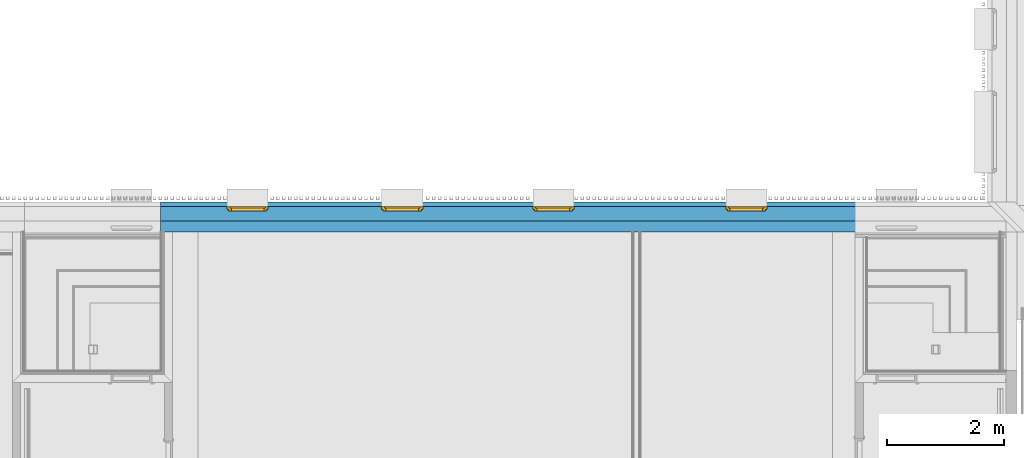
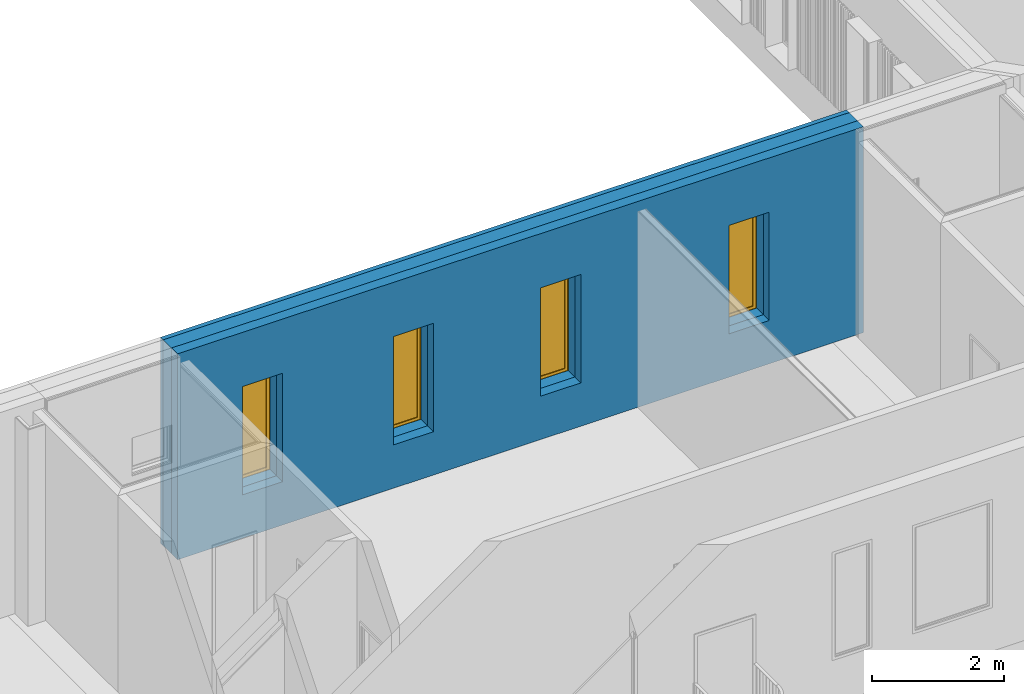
# One storey, part 33 of 100: 4 windows, 3 building element parts, 4 openings, 1 element without a shape of its own.
"""IFC2X3 building model written with IfcOpenShell, lengths in millimetres."""

from ifc_helpers import new_model, entity, si_unit, converted_unit, derived_unit, money_unit, direction, frame, origin_with_axes, origin_2d_with_axis, place, context, subcontext, project, spatial, polyline, rectangle, outline, extrude, open_shell, faceted_brep, surface_model, source, transform, mapped, material, type_object, element, fill, aggregate, save


model = new_model("IFC2X3")

# Units and contexts
model_context = context("Model", 3, precision=0.01, world=origin_with_axes(), true_north=direction((0.0, 1.0)))
body_context = subcontext(model_context, "Body", "Model", "MODEL_VIEW")
ifc_project = project(units=[si_unit("LENGTHUNIT", "METRE", prefix="MILLI"), si_unit("AREAUNIT", "SQUARE_METRE"), si_unit("VOLUMEUNIT", "CUBIC_METRE"), converted_unit("PLANEANGLEUNIT", "DEGREE", entity("IfcPlaneAngleMeasure", 0.0174532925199), si_unit("PLANEANGLEUNIT", "RADIAN"), dimensions=[0, 0, 0, 0, 0, 0, 0]), si_unit("SOLIDANGLEUNIT", "STERADIAN"), money_unit("EUR"), converted_unit("TIMEUNIT", "Year", entity("IfcTimeMeasure", 31556926.0), si_unit("TIMEUNIT", "SECOND"), dimensions=[0, 0, 1, 0, 0, 0, 0]), si_unit("MASSUNIT", "GRAM", prefix="KILO"), si_unit("THERMODYNAMICTEMPERATUREUNIT", "DEGREE_CELSIUS"), si_unit("LUMINOUSINTENSITYUNIT", "LUMEN"), si_unit("ENERGYUNIT", "JOULE", prefix="MEGA"), derived_unit("THERMALCONDUCTANCEUNIT", [(si_unit("POWERUNIT", "WATT"), 1), (si_unit("LENGTHUNIT", "METRE"), -1), (si_unit("THERMODYNAMICTEMPERATUREUNIT", "KELVIN"), -1)]), derived_unit("SPECIFICHEATCAPACITYUNIT", [(si_unit("ENERGYUNIT", "JOULE"), 1), (si_unit("MASSUNIT", "GRAM", prefix="KILO"), -1), (si_unit("THERMODYNAMICTEMPERATUREUNIT", "KELVIN"), -1)]), derived_unit("MASSDENSITYUNIT", [(si_unit("MASSUNIT", "GRAM", prefix="KILO"), 1), (si_unit("VOLUMEUNIT", "CUBIC_METRE"), -1)])], contexts=[model_context])

# Site, building, storey
site_placement = place(None, origin_with_axes())
site = spatial("IfcSite", under=ifc_project, at=site_placement, Name="Politse- ja Piirivalveameti ning Päästeameti ühishoone", CompositionType="ELEMENT")
building_placement = place(site_placement, origin_with_axes())
building = spatial("IfcBuilding", under=site, at=building_placement, Name="Politse- ja Piirivalveameti ning Päästeameti ühishoone", CompositionType="ELEMENT")
storey_placement = place(building_placement, frame((0.0, 0.0, 3800.0), z_axis=(0.0, 0.0, 1.0), x_axis=(1.0, 0.0, 0.0)))
storey = spatial("IfcBuildingStorey", under=building, at=storey_placement, Name="Teine korrus", CompositionType="ELEMENT", Elevation=3800.0)

# Window
window_style = type_object("IfcWindowStyle", Name="Window 23", ConstructionType="NOTDEFINED", OperationType="SINGLE_PANEL", ParameterTakesPrecedence=False, Sizeable=False)
shared_shape = source(origin_with_axes(), body_context, "Body", "SurfaceModel", [
    faceted_brep([(-325.0, 0.0, 1950.0), (-350.0, 0.0, 1950.0), (-350.0, -50.0, 1950.0), (-300.0, -50.0, 1950.0), (-300.0, -25.0, 1950.0), (-325.0, -25.0, 1950.0), (-325.0, 0.0, 50.0), (-350.0, 0.0, 50.0), (-350.0, -50.0, 50.0), (-300.0, -50.0, 50.0), (-300.0, -25.0, 50.0), (-325.0, -25.0, 50.0)], [[[0, 1, 2, 3, 4, 5]], [[6, 7, 1, 0]], [[1, 7, 8, 2]], [[2, 8, 9, 3]], [[4, 3, 9, 10]], [[10, 11, 5, 4]], [[5, 11, 6, 0]], [[11, 10, 9, 8, 7, 6]]]),
    faceted_brep([(300.0, -25.0, 1950.0), (300.0, -50.0, 1950.0), (350.0, -50.0, 1950.0), (350.0, 0.0, 1950.0), (325.0, 0.0, 1950.0), (325.0, -25.0, 1950.0), (300.0, -25.0, 50.0), (300.0, -50.0, 50.0), (350.0, -50.0, 50.0), (350.0, 0.0, 50.0), (325.0, 0.0, 50.0), (325.0, -25.0, 50.0)], [[[0, 1, 2, 3, 4, 5]], [[6, 7, 1, 0]], [[8, 2, 1, 7]], [[9, 3, 2, 8]], [[4, 3, 9, 10]], [[10, 11, 5, 4]], [[5, 11, 6, 0]], [[11, 10, 9, 8, 7, 6]]]),
    faceted_brep([(300.0, -25.0, 50.0), (300.0, -50.0, 50.0), (350.0, -50.0, 50.0), (350.0, 0.0, 50.0), (325.0, 0.0, 50.0), (325.0, -25.0, 50.0), (-300.0, -25.0, 50.0), (-300.0, -50.0, 50.0), (-350.0, -50.0, 50.0), (-350.0, -50.0, 0.0), (350.0, -50.0, 0.0), (350.0, 0.0, 0.0), (-325.0, 0.0, 25.0), (325.0, 0.0, 25.0), (-350.0, 0.0, 0.0), (-350.0, 0.0, 50.0), (-325.0, 0.0, 50.0), (325.0, -25.0, 25.0), (-325.0, -25.0, 25.0), (-325.0, -25.0, 50.0)], [[[0, 1, 2, 3, 4, 5]], [[6, 7, 1, 0]], [[8, 9, 10, 2, 1, 7]], [[11, 3, 2, 10]], [[12, 13, 4, 3, 11, 14, 15, 16]], [[13, 17, 5, 4]], [[5, 17, 18, 19, 6, 0]], [[19, 16, 15, 8, 7, 6]], [[15, 14, 9, 8]], [[14, 11, 10, 9]], [[12, 18, 17, 13]], [[19, 18, 12, 16]]]),
    faceted_brep([(-325.0, 0.0, 1950.0), (-350.0, 0.0, 1950.0), (-350.0, 0.0, 2000.0), (350.0, 0.0, 2000.0), (350.0, 0.0, 1950.0), (325.0, 0.0, 1950.0), (325.0, 0.0, 1975.0), (-325.0, 0.0, 1975.0), (-325.0, -25.0, 1950.0), (-300.0, -25.0, 1950.0), (-300.0, -50.0, 1950.0), (-350.0, -50.0, 1950.0), (-350.0, -50.0, 2000.0), (350.0, -50.0, 2000.0), (350.0, -50.0, 1950.0), (325.0, -25.0, 1950.0), (300.0, -50.0, 1950.0), (300.0, -25.0, 1950.0), (325.0, -25.0, 1975.0), (-325.0, -25.0, 1975.0)], [[[0, 1, 2, 3, 4, 5, 6, 7]], [[8, 9, 10, 11, 1, 0]], [[2, 1, 11, 12]], [[3, 2, 12, 13]], [[4, 3, 13, 14]], [[15, 5, 4, 14, 16, 17]], [[5, 15, 18, 6]], [[6, 18, 19, 7]], [[7, 19, 8, 0]], [[17, 9, 8, 19, 18, 15]], [[17, 16, 10, 9]], [[14, 13, 12, 11, 10, 16]]]),
    faceted_brep([(-275.0, -25.0, 1925.0), (-275.0, 25.0, 1925.0), (-325.0, 25.0, 1925.0), (-325.0, -25.0, 1925.0), (-275.0, -25.0, 75.0), (-275.0, 25.0, 75.0), (-325.0, 25.0, 75.0), (-325.0, -25.0, 75.0)], [[[0, 1, 2, 3]], [[4, 5, 1, 0]], [[1, 5, 6, 2]], [[3, 2, 6, 7]], [[0, 3, 7, 4]], [[7, 6, 5, 4]]]),
    faceted_brep([(275.0, -25.0, 75.0), (275.0, 25.0, 75.0), (325.0, 25.0, 75.0), (325.0, -25.0, 75.0), (275.0, -25.0, 1925.0), (275.0, 25.0, 1925.0), (325.0, 25.0, 1925.0), (325.0, -25.0, 1925.0)], [[[0, 1, 2, 3]], [[4, 5, 1, 0]], [[1, 5, 6, 2]], [[3, 2, 6, 7]], [[0, 3, 7, 4]], [[7, 6, 5, 4]]]),
    faceted_brep([(325.0, -25.0, 25.0), (325.0, 25.0, 25.0), (325.0, 25.0, 75.0), (325.0, -25.0, 75.0), (-325.0, -25.0, 25.0), (-325.0, 25.0, 25.0), (-325.0, 25.0, 75.0), (-275.0, 25.0, 75.0), (275.0, 25.0, 75.0), (275.0, -25.0, 75.0), (-275.0, -25.0, 75.0), (-325.0, -25.0, 75.0)], [[[0, 1, 2, 3]], [[4, 5, 1, 0]], [[1, 5, 6, 7, 8, 2]], [[3, 2, 8, 9]], [[0, 3, 9, 10, 11, 4]], [[11, 6, 5, 4]], [[10, 7, 6, 11]], [[9, 8, 7, 10]]]),
    faceted_brep([(-325.0, -25.0, 1975.0), (-325.0, 25.0, 1975.0), (-325.0, 25.0, 1925.0), (-325.0, -25.0, 1925.0), (325.0, -25.0, 1975.0), (325.0, 25.0, 1975.0), (325.0, 25.0, 1925.0), (275.0, 25.0, 1925.0), (-275.0, 25.0, 1925.0), (-275.0, -25.0, 1925.0), (275.0, -25.0, 1925.0), (325.0, -25.0, 1925.0)], [[[0, 1, 2, 3]], [[4, 5, 1, 0]], [[1, 5, 6, 7, 8, 2]], [[3, 2, 8, 9]], [[0, 3, 9, 10, 11, 4]], [[11, 6, 5, 4]], [[10, 7, 6, 11]], [[9, 8, 7, 10]]]),
    surface_model("IfcShellBasedSurfaceModel", [(-275.0, -10.0, 75.0), (275.0, -10.0, 75.0), (275.0, -10.0, 1925.0), (-275.0, -10.0, 1925.0)], [open_shell([[[0, 1, 2, 3]]])]),
    surface_model("IfcShellBasedSurfaceModel", [(-275.0, 10.0, 75.0), (-275.0, 10.0, 1925.0), (275.0, 10.0, 1925.0), (275.0, 10.0, 75.0)], [open_shell([[[0, 1, 2, 3]]])]),
])
wall_placement = place(storey_placement, frame((45568.4117734, 20999.9519867, 0.0), z_axis=(0.0, 0.0, 1.0), x_axis=(1.0, 1.30049798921e-07, 0.0)))
opening_1_placement = place(wall_placement, frame((9977.82700905, 0.0, 800.0), z_axis=(0.0, 0.0, 1.0), x_axis=(1.0, 0.0, 0.0)))
window_1_placement = place(opening_1_placement, frame((350.0, 0.0, 0.0), z_axis=(0.0, 0.0, 1.0), x_axis=(-1.0, 0.0, 0.0)))
window_1 = element("IfcWindow", 1, at=window_1_placement, inside=storey, type_object=window_style, Name="A-01", ObjectType="WINDOW", OverallHeight=2000.0, OverallWidth=700.0, context=body_context, shape_type="MappedRepresentation", body=[
    mapped(shared_shape, transform((349.999950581, -379.998702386, 0.0))),
])

opening_2_placement = place(wall_placement, frame((4116.44194835, 0.0, 800.0), z_axis=(0.0, 0.0, 1.0), x_axis=(1.0, 0.0, 0.0)))
window_2_placement = place(opening_2_placement, frame((350.0, 0.0, 0.0), z_axis=(0.0, 0.0, 1.0), x_axis=(-1.0, 0.0, 0.0)))
window_2 = element("IfcWindow", 2, at=window_2_placement, inside=storey, type_object=window_style, Name="A-01", ObjectType="WINDOW", OverallHeight=2000.0, OverallWidth=700.0, context=body_context, shape_type="MappedRepresentation", body=[
    mapped(shared_shape, transform((349.999950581, -379.999464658, 0.0))),
])

opening_3_placement = place(wall_placement, frame((6690.2560669, 0.0, 800.0), z_axis=(0.0, 0.0, 1.0), x_axis=(1.0, 0.0, 0.0)))
window_3_placement = place(opening_3_placement, frame((350.0, 0.0, 0.0), z_axis=(0.0, 0.0, 1.0), x_axis=(-1.0, 0.0, 0.0)))
window_3 = element("IfcWindow", 3, at=window_3_placement, inside=storey, type_object=window_style, Name="A-01", ObjectType="WINDOW", OverallHeight=2000.0, OverallWidth=700.0, context=body_context, shape_type="MappedRepresentation", body=[
    mapped(shared_shape, transform((349.999950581, -379.999129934, 0.0))),
])

opening_4_placement = place(wall_placement, frame((1483.55295642, 0.0, 800.0), z_axis=(0.0, 0.0, 1.0), x_axis=(1.0, 0.0, 0.0)))
window_4_placement = place(opening_4_placement, frame((350.0, 0.0, 0.0), z_axis=(0.0, 0.0, 1.0), x_axis=(-1.0, 0.0, 0.0)))
window_4 = element("IfcWindow", 4, at=window_4_placement, inside=storey, type_object=window_style, Name="A-01", ObjectType="WINDOW", OverallHeight=2000.0, OverallWidth=700.0, context=body_context, shape_type="MappedRepresentation", body=[
    mapped(shared_shape, transform((349.999950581, -379.999807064, 0.0))),
])

# Wall, opening
wall_type = type_object("IfcWallType", Name="VS-01_välissein 510", PredefinedType="NOTDEFINED")
wall = element("IfcWall", 5, at=wall_placement, inside=storey, type_object=wall_type, Name="VS-01")
opening_1 = element("IfcOpeningElement", 6, at=opening_1_placement, cuts=wall, Name="A-01", context=body_context, shape_type="SweptSolid", body=[
    extrude(rectangle(XDim=700.0, YDim=2000.0, at=origin_2d_with_axis()), frame((5.59213262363e-05, 429.998702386, 1000.0), z_axis=(1.30049798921e-07, 1.0, 0.0), x_axis=(-1.0, 1.30049799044e-07, 0.0)), (0.0, 0.0, -1.0), 940.0),
    extrude(rectangle(XDim=700.0, YDim=2000.0, at=origin_2d_with_axis()), frame((5.59213262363e-05, 429.998702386, 1000.0), z_axis=(-1.30049798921e-07, -1.0, 0.0), x_axis=(-1.0, 1.30049799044e-07, 0.0)), (0.0, 0.0, -1.0), 590.0),
])

fill(opening_1, window_1)

# Opening
opening_2 = element("IfcOpeningElement", 7, at=opening_2_placement, cuts=wall, Name="A-01", context=body_context, shape_type="SweptSolid", body=[
    extrude(rectangle(XDim=700.0, YDim=2000.0, at=origin_2d_with_axis()), frame((5.59213759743e-05, 429.999464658, 1000.0), z_axis=(1.30049798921e-07, 1.0, 0.0), x_axis=(-1.0, 1.30049799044e-07, 0.0)), (0.0, 0.0, -1.0), 940.0),
    extrude(rectangle(XDim=700.0, YDim=2000.0, at=origin_2d_with_axis()), frame((5.59213759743e-05, 429.999464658, 1000.0), z_axis=(-1.30049798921e-07, -1.0, 0.0), x_axis=(-1.0, 1.30049799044e-07, 0.0)), (0.0, 0.0, -1.0), 590.0),
])

fill(opening_2, window_2)

opening_3 = element("IfcOpeningElement", 8, at=opening_3_placement, cuts=wall, Name="A-01", context=body_context, shape_type="SweptSolid", body=[
    extrude(rectangle(XDim=700.0, YDim=2000.0, at=origin_2d_with_axis()), frame((5.59213617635e-05, 429.999129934, 1000.0), z_axis=(1.30049798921e-07, 1.0, 0.0), x_axis=(-1.0, 1.30049799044e-07, 0.0)), (0.0, 0.0, -1.0), 940.0),
    extrude(rectangle(XDim=700.0, YDim=2000.0, at=origin_2d_with_axis()), frame((5.59213617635e-05, 429.999129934, 1000.0), z_axis=(-1.30049798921e-07, -1.0, 0.0), x_axis=(-1.0, 1.30049799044e-07, 0.0)), (0.0, 0.0, -1.0), 590.0),
])

fill(opening_3, window_3)

opening_4 = element("IfcOpeningElement", 9, at=opening_4_placement, cuts=wall, Name="A-01", context=body_context, shape_type="SweptSolid", body=[
    extrude(rectangle(XDim=700.0, YDim=2000.0, at=origin_2d_with_axis()), frame((5.5921404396e-05, 429.999807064, 1000.0), z_axis=(1.30049798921e-07, 1.0, 0.0), x_axis=(-1.0, 1.30049799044e-07, 0.0)), (0.0, 0.0, -1.0), 940.0),
    extrude(rectangle(XDim=700.0, YDim=2000.0, at=origin_2d_with_axis()), frame((5.5921404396e-05, 429.999807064, 1000.0), z_axis=(-1.30049798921e-07, -1.0, 0.0), x_axis=(-1.0, 1.30049799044e-07, 0.0)), (0.0, 0.0, -1.0), 590.0),
])

fill(opening_4, window_4)

# Building element part
ifc_material_1 = material(Name="KON-04_Betoon - Konstuktsioon")
building_element_part_1_placement = place(wall_placement, origin_with_axes())
building_element_part_1 = element("IfcBuildingElementPart", 10, at=building_element_part_1_placement, material=ifc_material_1, Name="KON-04_Betoon - Konstuktsioon", context=body_context, shape_type="SweptSolid", body=[
    extrude(outline(polyline([(0.0, 0.0), (11972.0885359, 0.0), (11972.0885359, 180.0), (0.0, 180.0), (0.0, 0.0)])), origin_with_axes(), (0.0, 0.0, 1.0), 3800.0),
])

ifc_material_2 = material(Name="SOJ-06_Soojustus - Plastik Kõva")
building_element_part_2_placement = place(wall_placement, origin_with_axes())
building_element_part_2 = element("IfcBuildingElementPart", 11, at=building_element_part_2_placement, material=ifc_material_2, Name="SOJ-06_Soojustus - Plastik Kõva", context=body_context, shape_type="SweptSolid", body=[
    extrude(outline(polyline([(0.0, 180.0), (11972.0885359, 180.0), (11972.0885359, 430.0), (0.0, 430.0), (0.0, 180.0)])), origin_with_axes(), (0.0, 0.0, 1.0), 3800.0),
])

building_element_part_3_placement = place(wall_placement, origin_with_axes())
building_element_part_3 = element("IfcBuildingElementPart", 12, at=building_element_part_3_placement, material=ifc_material_1, Name="KON-04_Betoon - Konstuktsioon", context=body_context, shape_type="SweptSolid", body=[
    extrude(outline(polyline([(0.0, 430.0), (11972.0885359, 430.0), (11972.0885359, 510.0), (0.0, 510.0), (0.0, 430.0)])), origin_with_axes(), (0.0, 0.0, 1.0), 3800.0),
])

aggregate(wall, [building_element_part_1, building_element_part_2, building_element_part_3])

save(model, "model.ifc")
